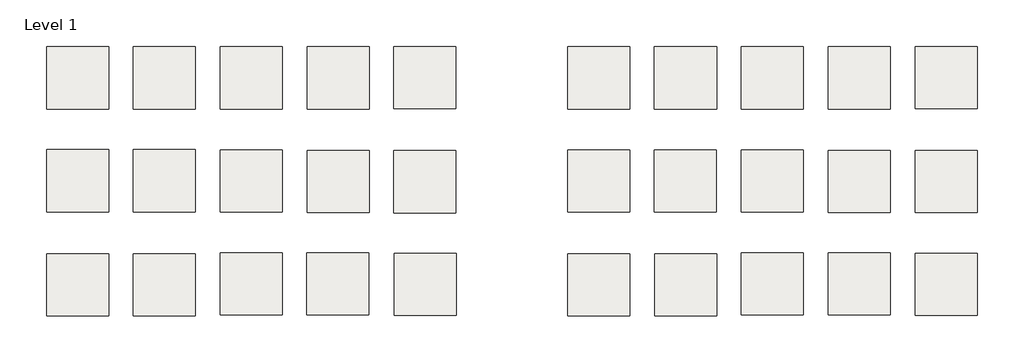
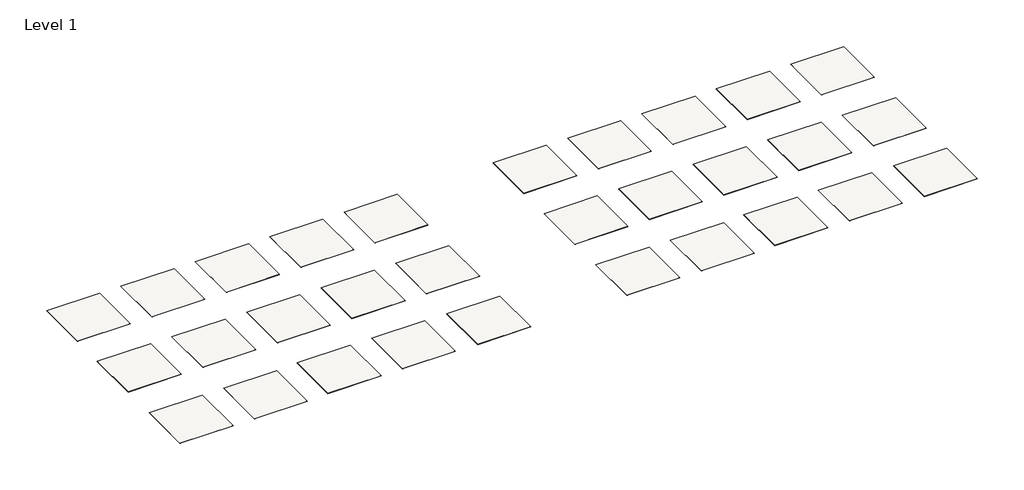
# One storey: 30 slabs.
"""IFC4 building model written with IfcOpenShell, lengths in millimetres."""

import ifcopenshell
import ifcopenshell.guid

model = None  # the IFC model being written
_history = None  # IfcOwnerHistory: only IFC2X3 demands one
_inside = {}  # id of a spatial element -> (the spatial element, [elements in it])
_under = {}  # id of a project, library or spatial element -> (it, [spatial elements below it])
_declared = {}  # id of a project -> (the project, [libraries it declares])
_typed = {}  # id of a type object -> (the type object, [elements of that type])
_made_of = {}  # id of a material, layer set ... -> (it, [elements and type objects made of it])


def new_model(schema):
    """Start an empty IFC model of exactly this schema.

    Asked for "IFC4X3", IfcOpenShell would pick the latest addendum, in which some entities
    have other attributes; the version numbers below select the first issue.
    IFC2X3 requires an IfcOwnerHistory on every rooted entity: one is made here for all.
    """
    global model, _history
    if schema == "IFC4X3":
        model = ifcopenshell.file(schema_version=(4, 3, 0, 0))
    else:
        model = ifcopenshell.file(schema=schema)
    _inside.clear()
    _under.clear()
    _declared.clear()
    _typed.clear()
    _made_of.clear()
    _history = None
    if model.schema == "IFC2X3":
        org = make("IfcOrganization", Name="unknown")
        user = make(
            "IfcPersonAndOrganization",
            ThePerson=make("IfcPerson", FamilyName="unknown"),
            TheOrganization=org,
        )
        app = make(
            "IfcApplication",
            ApplicationDeveloper=org,
            Version="unknown",
            ApplicationFullName="unknown",
            ApplicationIdentifier="unknown",
        )
        _history = make(
            "IfcOwnerHistory",
            OwningUser=user,
            OwningApplication=app,
            ChangeAction="ADDED",
            CreationDate=0,
        )
    return model


def make(cls, **values):
    """One entity of the class cls with the attributes given. An attribute that is None is left unset."""
    return model.create_entity(
        cls, **{name: value for name, value in values.items() if value is not None}
    )


def rooted(cls, **values):
    """An entity with a GlobalId (a new one), such as an element, a storey or a relation."""
    return make(cls, GlobalId=ifcopenshell.guid.new(), OwnerHistory=_history, **values)


def si_unit(unit_type, name, prefix=None):
    """IfcSIUnit, for example si_unit("LENGTHUNIT", "METRE", prefix="MILLI")."""
    return make("IfcSIUnit", UnitType=unit_type, Prefix=prefix, Name=name)


def assignment(units):
    """IfcUnitAssignment: the units of a project."""
    return None if units is None else make("IfcUnitAssignment", Units=units)


def point(xyz):
    """IfcCartesianPoint."""
    return None if xyz is None else make("IfcCartesianPoint", Coordinates=xyz)


def direction(xyz):
    """IfcDirection."""
    return None if xyz is None else make("IfcDirection", DirectionRatios=xyz)


def frame(location, z_axis=None, x_axis=None):
    """IfcAxis2Placement3D, a coordinate frame: its origin and axes. An axis left out is left unset."""
    return make(
        "IfcAxis2Placement3D",
        Location=point(location),
        Axis=direction(z_axis),
        RefDirection=direction(x_axis),
    )


def origin():
    """The frame at (0, 0, 0) with its axes left unset."""
    return frame((0.0, 0.0, 0.0))


def place(relative_to, where):
    """IfcLocalPlacement: puts the frame where relative to a parent placement (None: the world)."""
    return make(
        "IfcLocalPlacement", PlacementRelTo=relative_to, RelativePlacement=where
    )


def context(
    kind, dimensions, precision=None, world=None, true_north=None, identifier=None
):
    """IfcGeometricRepresentationContext, for example the 3D "Model" context."""
    return make(
        "IfcGeometricRepresentationContext",
        ContextIdentifier=identifier,
        ContextType=kind,
        CoordinateSpaceDimension=dimensions,
        Precision=precision,
        WorldCoordinateSystem=world,
        TrueNorth=true_north,
    )


def project(units=None, contexts=None):
    """IfcProject with its units and contexts."""
    return rooted(
        "IfcProject",
        Name="project",
        RepresentationContexts=contexts,
        UnitsInContext=assignment(units),
    )


def spatial(cls, under=None, at=None, **own):
    """A site, building, storey or space (cls), placed at a placement, below another one or the project."""
    s = rooted(cls, ObjectPlacement=at, **own)
    if under is not None:
        _under.setdefault(under.id(), (under, []))[1].append(s)
    return s


def polyline(points):
    """IfcPolyline through the points."""
    return make("IfcPolyline", Points=[point(p) for p in points])


def outline(outer, holes=None, kind="AREA"):
    """IfcArbitraryClosedProfileDef: a profile drawn as a closed curve; with holes, ...WithVoids."""
    if holes is None:
        return make("IfcArbitraryClosedProfileDef", ProfileType=kind, OuterCurve=outer)
    return make(
        "IfcArbitraryProfileDefWithVoids",
        ProfileType=kind,
        OuterCurve=outer,
        InnerCurves=holes,
    )


def extrude(swept, where, along, depth):
    """IfcExtrudedAreaSolid: the profile swept, set in the frame where, extruded along a direction by depth."""
    return make(
        "IfcExtrudedAreaSolid",
        SweptArea=swept,
        Position=where,
        ExtrudedDirection=direction(along),
        Depth=depth,
    )


def shape(context_of_items, identifier, shape_type, items):
    """IfcShapeRepresentation: the items that make up one representation, for example the "Body"."""
    return make(
        "IfcShapeRepresentation",
        ContextOfItems=context_of_items,
        RepresentationIdentifier=identifier,
        RepresentationType=shape_type,
        Items=items,
    )


def made_of(thing, what):
    """Note that an element or type object is made of a material, layer set ...; save() writes the relation."""
    if what is not None:
        _made_of.setdefault(what.id(), (what, []))[1].append(thing)
    return thing


def element(
    cls,
    number,
    at=None,
    inside=None,
    cuts=None,
    type_object=None,
    material=None,
    context=None,
    identifier="Body",
    shape_type=None,
    held_by="IfcProductDefinitionShape",
    body=None,
    shapes=None,
    **own,
):
    """One element of the class cls, such as IfcWall. Its Tag is "e" and its number.

    at: its placement. inside: the storey or other place that contains it. cuts: it is an
    opening in that element (IfcRelVoidsElement). A single representation is given by context,
    identifier, shape_type and body (its items); several are given by shapes. held_by: the class
    of the entity that holds the representations. save() writes the other relations.
    """
    e = rooted(cls, Tag="e%d" % number, ObjectPlacement=at, **own)
    if body is not None:
        shapes = [shape(context, identifier, shape_type, body)]
    if shapes is not None:
        e.Representation = make(held_by, Representations=shapes)
    if inside is not None:
        _inside.setdefault(inside.id(), (inside, []))[1].append(e)
    if cuts is not None:
        rooted(
            "IfcRelVoidsElement", RelatingBuildingElement=cuts, RelatedOpeningElement=e
        )
    if type_object is not None:
        _typed.setdefault(type_object.id(), (type_object, []))[1].append(e)
    return made_of(e, material)


def aggregate(whole, parts):
    """IfcRelAggregates: a whole, such as a stair, and the parts it consists of."""
    return rooted("IfcRelAggregates", RelatingObject=whole, RelatedObjects=parts)


def save(model, path):
    """Write the relations noted so far, then the file.

    IfcRelAggregates (storeys below a building ...), IfcRelContainedInSpatialStructure (elements
    in a storey), IfcRelDefinesByType, IfcRelAssociatesMaterial and IfcRelDeclares: one each for
    every whole, place, type object, material and project.
    """
    for whole, parts in _under.values():
        aggregate(whole, parts)
    for where, things in _inside.values():
        rooted(
            "IfcRelContainedInSpatialStructure",
            RelatedElements=things,
            RelatingStructure=where,
        )
    for kind, things in _typed.values():
        rooted("IfcRelDefinesByType", RelatedObjects=things, RelatingType=kind)
    for what, things in _made_of.values():
        rooted("IfcRelAssociatesMaterial", RelatedObjects=things, RelatingMaterial=what)
    for by, libraries in _declared.values():
        rooted("IfcRelDeclares", RelatingContext=by, RelatedDefinitions=libraries)
    model.write(path)


model = new_model("IFC4")

# Units and contexts
model_context = context("Model", 3, world=origin())
ifc_project = project(units=[si_unit("LENGTHUNIT", "METRE", prefix="MILLI")], contexts=[model_context])

# Site, building, storey
site = spatial("IfcSite", under=ifc_project)
building = spatial("IfcBuilding", under=site)
storey = spatial("IfcBuildingStorey", under=building, Name="Level 1", Elevation=0.0)

# Slabs
placement = place(None, origin())
element("IfcSlab", 1, ObjectType="Armstrong_BBT_Migrations_Z3503 ashen gray", at=placement, inside=storey, context=model_context, shape_type="SweptSolid", body=[
    extrude(outline(polyline([(1254.2055838, 2884.7695431), (1254.2055838, 1360.7695431), (-269.7944162, 1360.7695431), (-269.7944162, 2884.7695431), (1254.2055838, 2884.7695431)])), frame((0.0, 0.0, -3.175), z_axis=(0.0, 0.0, 1.0), x_axis=(1.0, 0.0, 0.0)), (0.0, 0.0, 1.0), 3.175),
])
element("IfcSlab", 2, ObjectType="Armstrong_BBT_Migrations_Z3509 mushroom beige", at=placement, inside=storey, context=model_context, shape_type="SweptSolid", body=[
    extrude(outline(polyline([(3387.8055838, 2884.7695431), (3387.8055838, 1360.7695431), (1863.8055838, 1360.7695431), (1863.8055838, 2884.7695431), (3387.8055838, 2884.7695431)])), frame((0.0, 0.0, -3.175), z_axis=(0.0, 0.0, 1.0), x_axis=(1.0, 0.0, 0.0)), (0.0, 0.0, 1.0), 3.175),
])
element("IfcSlab", 3, ObjectType="Armstrong_BBT_Migrations_Z3528 oz", at=placement, inside=storey, context=model_context, shape_type="SweptSolid", body=[
    extrude(outline(polyline([(5521.4055838, 2884.7695431), (5521.4055838, 1360.7695431), (3997.4055838, 1360.7695431), (3997.4055838, 2884.7695431), (5521.4055838, 2884.7695431)])), frame((0.0, 0.0, -3.175), z_axis=(0.0, 0.0, 1.0), x_axis=(1.0, 0.0, 0.0)), (0.0, 0.0, 1.0), 3.175),
])
element("IfcSlab", 4, ObjectType="Armstrong_BBT_Migrations_Z3529 seaside", at=placement, inside=storey, context=model_context, shape_type="SweptSolid", body=[
    extrude(outline(polyline([(7655.0055838, 2884.7695431), (7655.0055838, 1360.7695431), (6131.0055838, 1360.7695431), (6131.0055838, 2884.7695431), (7655.0055838, 2884.7695431)])), frame((0.0, 0.0, -3.175), z_axis=(0.0, 0.0, 1.0), x_axis=(1.0, 0.0, 0.0)), (0.0, 0.0, 1.0), 3.175),
])
element("IfcSlab", 5, ObjectType="Armstrong_BBT_Migrations_Z3531 emblem", at=placement, inside=storey, context=model_context, shape_type="SweptSolid", body=[
    extrude(outline(polyline([(9787.5738118, 2895.5103199), (9787.5738118, 1371.5103199), (8263.5738118, 1371.5103199), (8263.5738118, 2895.5103199), (9787.5738118, 2895.5103199)])), frame((0.0, 0.0, -3.175), z_axis=(0.0, 0.0, 1.0), x_axis=(1.0, 0.0, 0.0)), (0.0, 0.0, 1.0), 3.175),
])
element("IfcSlab", 6, ObjectType="Armstrong_BBT_Migrations_Z3533 overcast", at=placement, inside=storey, context=model_context, shape_type="SweptSolid", body=[
    extrude(outline(polyline([(1252.7372481, 353.7570164), (1252.7372481, -1170.2429836), (-271.2627519, -1170.2429836), (-271.2627519, 353.7570164), (1252.7372481, 353.7570164)])), frame((0.0, 0.0, -3.175), z_axis=(0.0, 0.0, 1.0), x_axis=(1.0, 0.0, 0.0)), (0.0, 0.0, 1.0), 3.175),
])
element("IfcSlab", 7, ObjectType="Armstrong_BBT_Migrations_Z3534 early evening", at=placement, inside=storey, context=model_context, shape_type="SweptSolid", body=[
    extrude(outline(polyline([(3386.3372481, 353.7570164), (3386.3372481, -1170.2429836), (1862.3372481, -1170.2429836), (1862.3372481, 353.7570164), (3386.3372481, 353.7570164)])), frame((0.0, 0.0, -3.175), z_axis=(0.0, 0.0, 1.0), x_axis=(1.0, 0.0, 0.0)), (0.0, 0.0, 1.0), 3.175),
])
element("IfcSlab", 8, ObjectType="Armstrong_BBT_Migrations_Z3535  chowder", at=placement, inside=storey, context=model_context, shape_type="SweptSolid", body=[
    extrude(outline(polyline([(5519.9850671, 343.6674285), (5519.9850671, -1180.3325715), (3995.9850671, -1180.3325715), (3995.9850671, 343.6674285), (5519.9850671, 343.6674285)])), frame((0.0, 0.0, -3.175), z_axis=(0.0, 0.0, 1.0), x_axis=(1.0, 0.0, 0.0)), (0.0, 0.0, 1.0), 3.175),
])
element("IfcSlab", 9, ObjectType="Armstrong_BBT_Migrations_Z3537 decaf", at=placement, inside=storey, context=model_context, shape_type="SweptSolid", body=[
    extrude(outline(polyline([(7654.616839, 332.9266517), (7654.616839, -1191.0733483), (6130.616839, -1191.0733483), (6130.616839, 332.9266517), (7654.616839, 332.9266517)])), frame((0.0, 0.0, -3.175), z_axis=(0.0, 0.0, 1.0), x_axis=(1.0, 0.0, 0.0)), (0.0, 0.0, 1.0), 3.175),
])
element("IfcSlab", 10, ObjectType="Armstrong_BBT_Migrations_Z3540 nightfall", at=placement, inside=storey, context=model_context, shape_type="SweptSolid", body=[
    extrude(outline(polyline([(9788.2447095, 329.6100357), (9788.2447095, -1194.3899643), (8264.2447095, -1194.3899643), (8264.2447095, 329.6100357), (9788.2447095, 329.6100357)])), frame((0.0, 0.0, -3.175), z_axis=(0.0, 0.0, 1.0), x_axis=(1.0, 0.0, 0.0)), (0.0, 0.0, 1.0), 3.175),
])
element("IfcSlab", 11, ObjectType="Armstrong_BBT_Migrations_Z3542 sleet", at=placement, inside=storey, context=model_context, shape_type="SweptSolid", body=[
    extrude(outline(polyline([(1253.3603268, -2212.1432678), (1253.3603268, -3736.1432678), (-270.6396732, -3736.1432678), (-270.6396732, -2212.1432678), (1253.3603268, -2212.1432678)])), frame((0.0, 0.0, -3.175), z_axis=(0.0, 0.0, 1.0), x_axis=(1.0, 0.0, 0.0)), (0.0, 0.0, 1.0), 3.175),
])
element("IfcSlab", 12, ObjectType="Armstrong_BBT_Migrations_Z3544 turtle dove", at=placement, inside=storey, context=model_context, shape_type="SweptSolid", body=[
    extrude(outline(polyline([(3386.9603268, -2212.1432678), (3386.9603268, -3736.1432678), (1862.9603268, -3736.1432678), (1862.9603268, -2212.1432678), (3386.9603268, -2212.1432678)])), frame((0.0, 0.0, -3.175), z_axis=(0.0, 0.0, 1.0), x_axis=(1.0, 0.0, 0.0)), (0.0, 0.0, 1.0), 3.175),
])
element("IfcSlab", 13, ObjectType="Armstrong_BBT_Migrations_Z3546 shiraz", at=placement, inside=storey, context=model_context, shape_type="SweptSolid", body=[
    extrude(outline(polyline([(5514.4914335, -2179.4852719), (5514.4914335, -3703.4852719), (3990.4914335, -3703.4852719), (3990.4914335, -2179.4852719), (5514.4914335, -2179.4852719)])), frame((0.0, 0.0, -3.175), z_axis=(0.0, 0.0, 1.0), x_axis=(1.0, 0.0, 0.0)), (0.0, 0.0, 1.0), 3.175),
])
element("IfcSlab", 14, ObjectType="Armstrong_BBT_Migrations_Z3547 hail", at=placement, inside=storey, context=model_context, shape_type="SweptSolid", body=[
    extrude(outline(polyline([(7648.0914335, -2179.4852719), (7648.0914335, -3703.4852719), (6124.0914335, -3703.4852719), (6124.0914335, -2179.4852719), (7648.0914335, -2179.4852719)])), frame((0.0, 0.0, -3.175), z_axis=(0.0, 0.0, 1.0), x_axis=(1.0, 0.0, 0.0)), (0.0, 0.0, 1.0), 3.175),
])
element("IfcSlab", 15, ObjectType="Armstrong_BBT_Migrations_Z3548 vanilla extract", at=placement, inside=storey, context=model_context, shape_type="SweptSolid", body=[
    extrude(outline(polyline([(9792.7695776, -2200.4751071), (9792.7695776, -3724.4751071), (8268.7695776, -3724.4751071), (8268.7695776, -2200.4751071), (9792.7695776, -2200.4751071)])), frame((0.0, 0.0, -3.175), z_axis=(0.0, 0.0, 1.0), x_axis=(1.0, 0.0, 0.0)), (0.0, 0.0, 1.0), 3.175),
])
element("IfcSlab", 16, ObjectType="Armstrong_BBT_Migrations_Z3503 ashen gray (staggered)", at=placement, inside=storey, context=model_context, shape_type="SweptSolid", body=[
    extrude(outline(polyline([(14055.8055838, 2884.7695431), (14055.8055838, 1360.7695431), (12531.8055838, 1360.7695431), (12531.8055838, 2884.7695431), (14055.8055838, 2884.7695431)])), frame((0.0, 0.0, -3.175), z_axis=(0.0, 0.0, 1.0), x_axis=(1.0, 0.0, 0.0)), (0.0, 0.0, 1.0), 3.175),
])
element("IfcSlab", 17, ObjectType="Armstrong_BBT_Migrations_Z3509 mushroom beige (staggered)", at=placement, inside=storey, context=model_context, shape_type="SweptSolid", body=[
    extrude(outline(polyline([(16189.4055838, 2884.7695431), (16189.4055838, 1360.7695431), (14665.4055838, 1360.7695431), (14665.4055838, 2884.7695431), (16189.4055838, 2884.7695431)])), frame((0.0, 0.0, -3.175), z_axis=(0.0, 0.0, 1.0), x_axis=(1.0, 0.0, 0.0)), (0.0, 0.0, 1.0), 3.175),
])
element("IfcSlab", 18, ObjectType="Armstrong_BBT_Migrations_Z35028 oz (staggered)", at=placement, inside=storey, context=model_context, shape_type="SweptSolid", body=[
    extrude(outline(polyline([(18323.0055838, 2884.7695431), (18323.0055838, 1360.7695431), (16799.0055838, 1360.7695431), (16799.0055838, 2884.7695431), (18323.0055838, 2884.7695431)])), frame((0.0, 0.0, -3.175), z_axis=(0.0, 0.0, 1.0), x_axis=(1.0, 0.0, 0.0)), (0.0, 0.0, 1.0), 3.175),
])
element("IfcSlab", 19, ObjectType="Armstrong_BBT_Migrations_Z3529 seaside (staggered)", at=placement, inside=storey, context=model_context, shape_type="SweptSolid", body=[
    extrude(outline(polyline([(20456.6055838, 2884.7695431), (20456.6055838, 1360.7695431), (18932.6055838, 1360.7695431), (18932.6055838, 2884.7695431), (20456.6055838, 2884.7695431)])), frame((0.0, 0.0, -3.175), z_axis=(0.0, 0.0, 1.0), x_axis=(1.0, 0.0, 0.0)), (0.0, 0.0, 1.0), 3.175),
])
element("IfcSlab", 20, ObjectType="Armstrong_BBT_Migrations_Z3531 emblem (staggered)", at=placement, inside=storey, context=model_context, shape_type="SweptSolid", body=[
    extrude(outline(polyline([(22590.1577648, 2894.8591311), (22590.1577648, 1370.8591311), (21066.1577648, 1370.8591311), (21066.1577648, 2894.8591311), (22590.1577648, 2894.8591311)])), frame((0.0, 0.0, -3.175), z_axis=(0.0, 0.0, 1.0), x_axis=(1.0, 0.0, 0.0)), (0.0, 0.0, 1.0), 3.175),
])
element("IfcSlab", 21, ObjectType="Armstrong_BBT_Migrations_Z3533 overcast (staggered)", at=placement, inside=storey, context=model_context, shape_type="SweptSolid", body=[
    extrude(outline(polyline([(14055.321201, 353.1058276), (14055.321201, -1170.8941724), (12531.321201, -1170.8941724), (12531.321201, 353.1058276), (14055.321201, 353.1058276)])), frame((0.0, 0.0, -3.175), z_axis=(0.0, 0.0, 1.0), x_axis=(1.0, 0.0, 0.0)), (0.0, 0.0, 1.0), 3.175),
])
element("IfcSlab", 22, ObjectType="Armstrong_BBT_Migrations_Z3534 early evening (staggered)", at=placement, inside=storey, context=model_context, shape_type="SweptSolid", body=[
    extrude(outline(polyline([(16188.921201, 353.1058276), (16188.921201, -1170.8941724), (14664.921201, -1170.8941724), (14664.921201, 353.1058276), (16188.921201, 353.1058276)])), frame((0.0, 0.0, -3.175), z_axis=(0.0, 0.0, 1.0), x_axis=(1.0, 0.0, 0.0)), (0.0, 0.0, 1.0), 3.175),
])
element("IfcSlab", 23, ObjectType="Armstrong_BBT_Migrations_Z3535 chowder (staggered)", at=placement, inside=storey, context=model_context, shape_type="SweptSolid", body=[
    extrude(outline(polyline([(18325.9907709, 344.5948125), (18325.9907709, -1179.4051875), (16801.9907709, -1179.4051875), (16801.9907709, 344.5948125), (18325.9907709, 344.5948125)])), frame((0.0, 0.0, -3.175), z_axis=(0.0, 0.0, 1.0), x_axis=(1.0, 0.0, 0.0)), (0.0, 0.0, 1.0), 3.175),
])
element("IfcSlab", 24, ObjectType="Armstrong_BBT_Migrations_Z3537 decaf (staggered)", at=placement, inside=storey, context=model_context, shape_type="SweptSolid", body=[
    extrude(outline(polyline([(20460.6225428, 333.8540357), (20460.6225428, -1190.1459643), (18936.6225428, -1190.1459643), (18936.6225428, 333.8540357), (20460.6225428, 333.8540357)])), frame((0.0, 0.0, -3.175), z_axis=(0.0, 0.0, 1.0), x_axis=(1.0, 0.0, 0.0)), (0.0, 0.0, 1.0), 3.175),
])
element("IfcSlab", 25, ObjectType="Armstrong_BBT_Migrations_Z3540 nightfall (staggered)", at=placement, inside=storey, context=model_context, shape_type="SweptSolid", body=[
    extrude(outline(polyline([(22595.8379133, 330.5374196), (22595.8379133, -1193.4625804), (21071.8379133, -1193.4625804), (21071.8379133, 330.5374196), (22595.8379133, 330.5374196)])), frame((0.0, 0.0, -3.175), z_axis=(0.0, 0.0, 1.0), x_axis=(1.0, 0.0, 0.0)), (0.0, 0.0, 1.0), 3.175),
])
element("IfcSlab", 26, ObjectType="Armstrong_BBT_Migrations_Z3542 sleet (staggered)", at=placement, inside=storey, context=model_context, shape_type="SweptSolid", body=[
    extrude(outline(polyline([(14060.9535306, -2211.2158838), (14060.9535306, -3735.2158838), (12536.9535306, -3735.2158838), (12536.9535306, -2211.2158838), (14060.9535306, -2211.2158838)])), frame((0.0, 0.0, -3.175), z_axis=(0.0, 0.0, 1.0), x_axis=(1.0, 0.0, 0.0)), (0.0, 0.0, 1.0), 3.175),
])
element("IfcSlab", 27, ObjectType="Armstrong_BBT_Migrations_Z3544 turtle dove (staggered)", at=placement, inside=storey, context=model_context, shape_type="SweptSolid", body=[
    extrude(outline(polyline([(16194.5535306, -2211.2158838), (16194.5535306, -3735.2158838), (14670.5535306, -3735.2158838), (14670.5535306, -2211.2158838), (16194.5535306, -2211.2158838)])), frame((0.0, 0.0, -3.175), z_axis=(0.0, 0.0, 1.0), x_axis=(1.0, 0.0, 0.0)), (0.0, 0.0, 1.0), 3.175),
])
element("IfcSlab", 28, ObjectType="Armstrong_BBT_Migrations_Z3546 shiraz (staggered)", at=placement, inside=storey, context=model_context, shape_type="SweptSolid", body=[
    extrude(outline(polyline([(18322.1324563, -2179.1224759), (18322.1324563, -3703.1224759), (16798.1324563, -3703.1224759), (16798.1324563, -2179.1224759), (18322.1324563, -2179.1224759)])), frame((0.0, 0.0, -3.175), z_axis=(0.0, 0.0, 1.0), x_axis=(1.0, 0.0, 0.0)), (0.0, 0.0, 1.0), 3.175),
])
element("IfcSlab", 29, ObjectType="Armstrong_BBT_Migrations_Z3547 hail (staggered)", at=placement, inside=storey, context=model_context, shape_type="SweptSolid", body=[
    extrude(outline(polyline([(20455.7324563, -2179.1224759), (20455.7324563, -3703.1224759), (18931.7324563, -3703.1224759), (18931.7324563, -2179.1224759), (20455.7324563, -2179.1224759)])), frame((0.0, 0.0, -3.175), z_axis=(0.0, 0.0, 1.0), x_axis=(1.0, 0.0, 0.0)), (0.0, 0.0, 1.0), 3.175),
])
element("IfcSlab", 30, ObjectType="Armstrong_BBT_Migrations_Z3548 vanilla extract (staggered)", at=placement, inside=storey, context=model_context, shape_type="SweptSolid", body=[
    extrude(outline(polyline([(22600.4106004, -2200.1123111), (22600.4106004, -3724.1123111), (21076.4106004, -3724.1123111), (21076.4106004, -2200.1123111), (22600.4106004, -2200.1123111)])), frame((0.0, 0.0, -3.175), z_axis=(0.0, 0.0, 1.0), x_axis=(1.0, 0.0, 0.0)), (0.0, 0.0, 1.0), 3.175),
])

save(model, "model.ifc")
